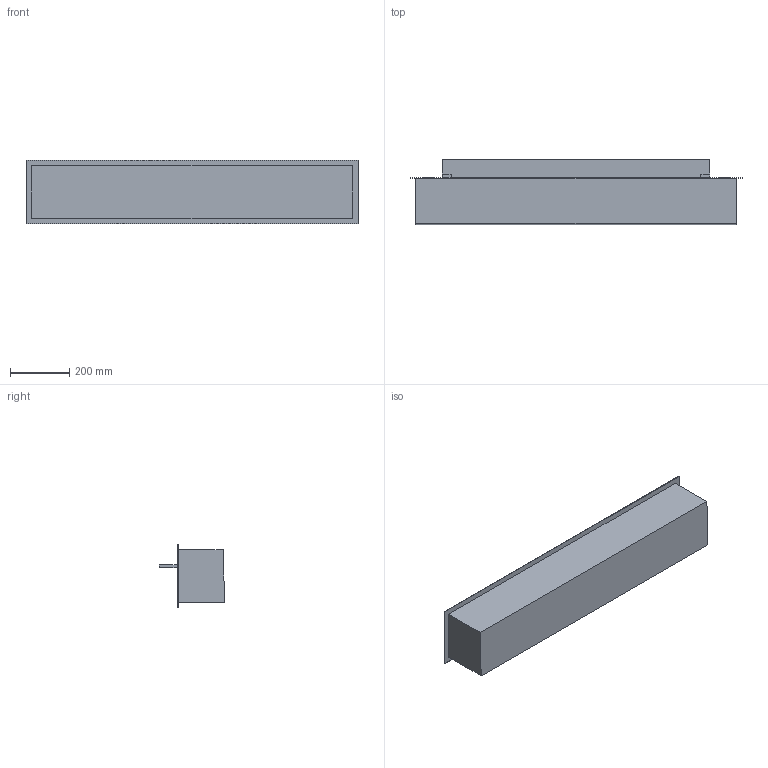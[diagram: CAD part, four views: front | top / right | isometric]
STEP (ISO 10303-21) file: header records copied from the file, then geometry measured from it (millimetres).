
FILE_DESCRIPTION (( 'STEP AP203' ), '1' );
FILE_NAME ('Denver F6 1120.STEP', '2024-03-13T09:19:22', ( '' ), ( '' ), 'SwSTEP 2.0', 'SolidWorks 2023', '' );
FILE_SCHEMA (( 'CONFIG_CONTROL_DESIGN' ));
Length unit declared in the file: millimetre
Products named in the file (1): Denver F6 1120
Bounding box: 1120 x 220 x 215 mm (x, y, z)
Volume: 30822919 mm3; surface area: 1418629.4 mm2
Topology: 8 solids, 8 shells, 68 faces, 156 edges, 104 vertices
Faces by surface type: plane 68
Entity records: 1955 total; most frequent: CARTESIAN_POINT 329, ORIENTED_EDGE 312, DIRECTION 294, EDGE_CURVE 156, LINE 156, VECTOR 156, VERTEX_POINT 104, EDGE_LOOP 74
